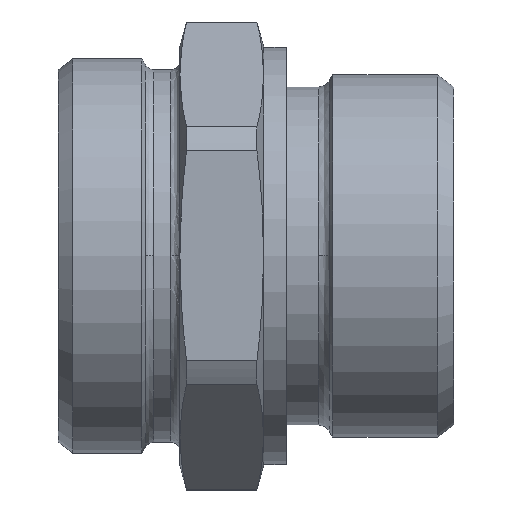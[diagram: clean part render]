
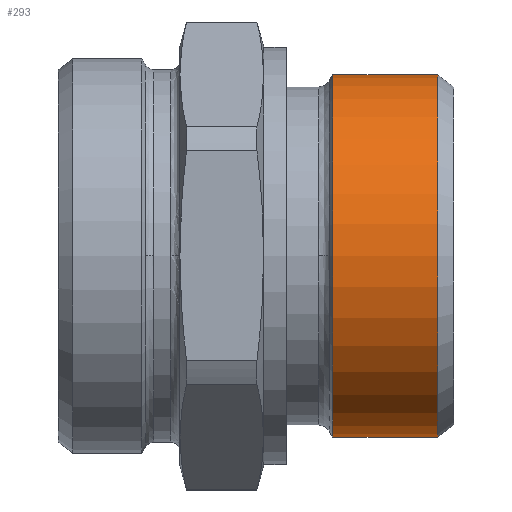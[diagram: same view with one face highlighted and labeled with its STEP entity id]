
A CAD part, top view. The second image highlights one B-rep face of the part: STEP entity #293.
In plain terms, the highlighted cylindrical face has radius 23.81 mm (diameter 47.62 mm), a partial arc.
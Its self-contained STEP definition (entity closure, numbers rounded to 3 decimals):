
#225=CARTESIAN_POINT('',(0.,23.81,-28.363));
#226=VERTEX_POINT('',#225);
#235=CARTESIAN_POINT('',(0.,-23.81,-28.363));
#236=VERTEX_POINT('',#235);
#237=CARTESIAN_POINT('',(0.,0.,-28.363));
#238=DIRECTION('',(0.0,0.0,-1.0));
#239=DIRECTION('',(0.0,1.0,0.0));
#240=AXIS2_PLACEMENT_3D('',#237,#238,#239);
#241=CIRCLE('',#240,23.81);
#242=EDGE_CURVE('',#226,#236,#241,.T.);
#262=CARTESIAN_POINT('',(0.,0.,-21.471));
#263=DIRECTION('',(0.,0.,-1.0));
#264=DIRECTION('',(0.0,1.0,0.0));
#265=AXIS2_PLACEMENT_3D('',#262,#263,#264);
#266=CYLINDRICAL_SURFACE('',#265,23.81);
#267=CARTESIAN_POINT('',(0.,23.81,-14.58));
#268=VERTEX_POINT('',#267);
#269=CARTESIAN_POINT('',(0.,23.81,-14.58));
#270=DIRECTION('',(0.0,0.0,-1.0));
#271=VECTOR('',#270,13.784);
#272=LINE('',#269,#271);
#273=EDGE_CURVE('',#268,#226,#272,.T.);
#274=ORIENTED_EDGE('',*,*,#273,.F.);
#275=CARTESIAN_POINT('',(0.,-23.81,-14.58));
#276=VERTEX_POINT('',#275);
#277=CARTESIAN_POINT('',(0.,0.,-14.58));
#278=DIRECTION('',(0.0,0.0,-1.0));
#279=DIRECTION('',(0.0,1.0,0.0));
#280=AXIS2_PLACEMENT_3D('',#277,#278,#279);
#281=CIRCLE('',#280,23.81);
#282=EDGE_CURVE('',#268,#276,#281,.T.);
#283=ORIENTED_EDGE('',*,*,#282,.T.);
#284=CARTESIAN_POINT('',(0.,-23.81,-28.363));
#285=DIRECTION('',(0.0,0.0,1.0));
#286=VECTOR('',#285,13.784);
#287=LINE('',#284,#286);
#288=EDGE_CURVE('',#236,#276,#287,.T.);
#289=ORIENTED_EDGE('',*,*,#288,.F.);
#290=ORIENTED_EDGE('',*,*,#242,.F.);
#291=EDGE_LOOP('',(#274,#283,#289,#290));
#292=FACE_OUTER_BOUND('',#291,.T.);
#293=ADVANCED_FACE('',(#292),#266,.T.);
